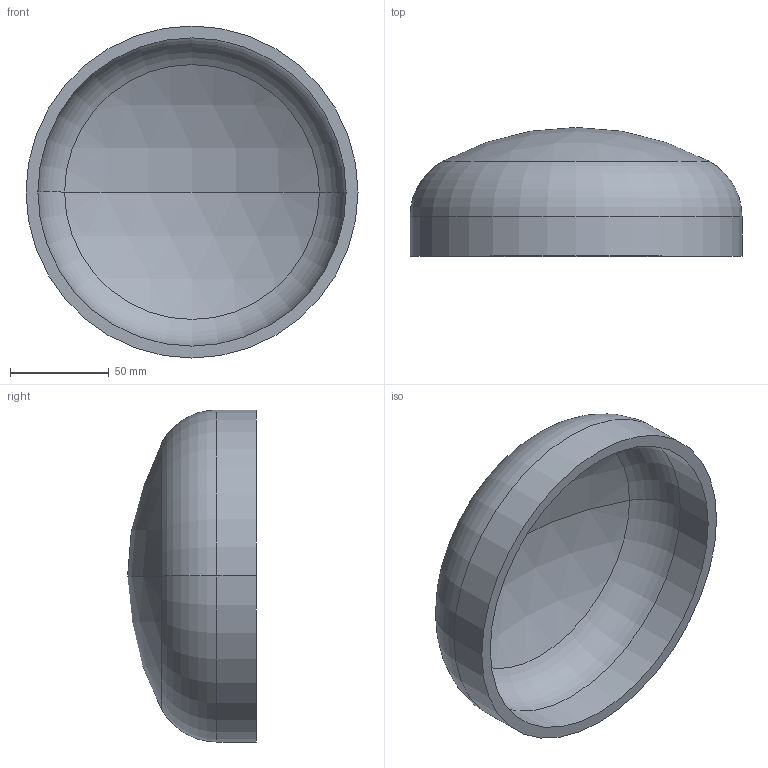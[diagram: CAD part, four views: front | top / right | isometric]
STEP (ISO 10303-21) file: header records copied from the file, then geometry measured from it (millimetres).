
FILE_DESCRIPTION (( 'STEP AP203' ), '1' );
FILE_NAME ('DIN 28013 Korbbogenform_-_Boden DIN 28013 - 168,3 x 20 - I - s=6.step', '2016-07-01T07:41:26', ( '' ), ( '' ), 'SwSTEP 2.0', 'SolidWorks 2013', '' );
FILE_SCHEMA (( 'CONFIG_CONTROL_DESIGN' ));
Length unit declared in the file: millimetre
Products named in the file (1): DIN 28013 Korbbogenform_-_Boden DIN 28013 - 168,3 x 20 - I - s=6
Bounding box: 168.3 x 65.28 x 168.3 mm (x, y, z)
Volume: 237756.8 mm3; surface area: 82386.9 mm2
Topology: 1 solids, 1 shells, 13 faces, 24 edges, 14 vertices
Faces by surface type: torus 4, cylinder 4, sphere 4, plane 1
Entity records: 407 total; most frequent: DIRECTION 72, CARTESIAN_POINT 52, ORIENTED_EDGE 48, AXIS2_PLACEMENT_3D 34, EDGE_CURVE 24, CIRCLE 20, EDGE_LOOP 14, VERTEX_POINT 14
